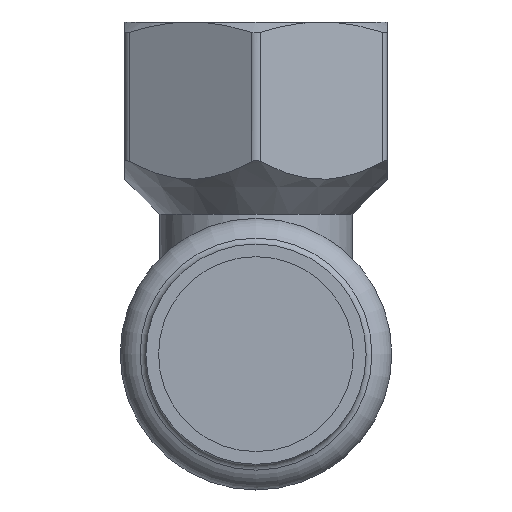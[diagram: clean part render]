
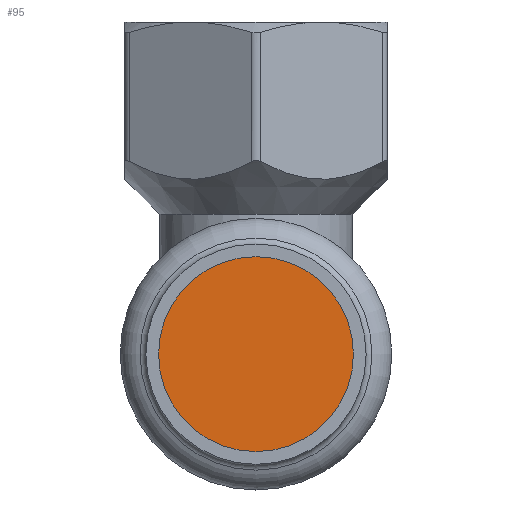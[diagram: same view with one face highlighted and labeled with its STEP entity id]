
A CAD part, front view. The second image highlights one B-rep face of the part: STEP entity #95.
In plain terms, the highlighted planar face has unit normal (0, -1, 0).
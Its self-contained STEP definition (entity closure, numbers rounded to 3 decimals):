
#95=ADVANCED_FACE('',(#436),#438,.T.);
#436=FACE_BOUND('',#437,.T.);
#437=EDGE_LOOP('',(#592));
#438=PLANE('',#439);
#439=AXIS2_PLACEMENT_3D('',#440,#441,#442);
#440=CARTESIAN_POINT('',(0.,-41.029,0.));
#441=DIRECTION('',(0.,-1.,0.));
#442=DIRECTION('',(0.,0.,-1.));
#592=ORIENTED_EDGE('',*,*,#667,.T.);
#667=EDGE_CURVE('',#798,#798,#799,.F.);
#798=VERTEX_POINT('',#2073);
#799=CIRCLE('',#2074,11.15);
#2073=CARTESIAN_POINT('',(0.,-41.029,11.15));
#2074=AXIS2_PLACEMENT_3D('',#2075,#2076,#2077);
#2075=CARTESIAN_POINT('',(0.,-41.029,0.));
#2076=DIRECTION('',(0.,1.,0.));
#2077=DIRECTION('',(0.,0.,1.));
